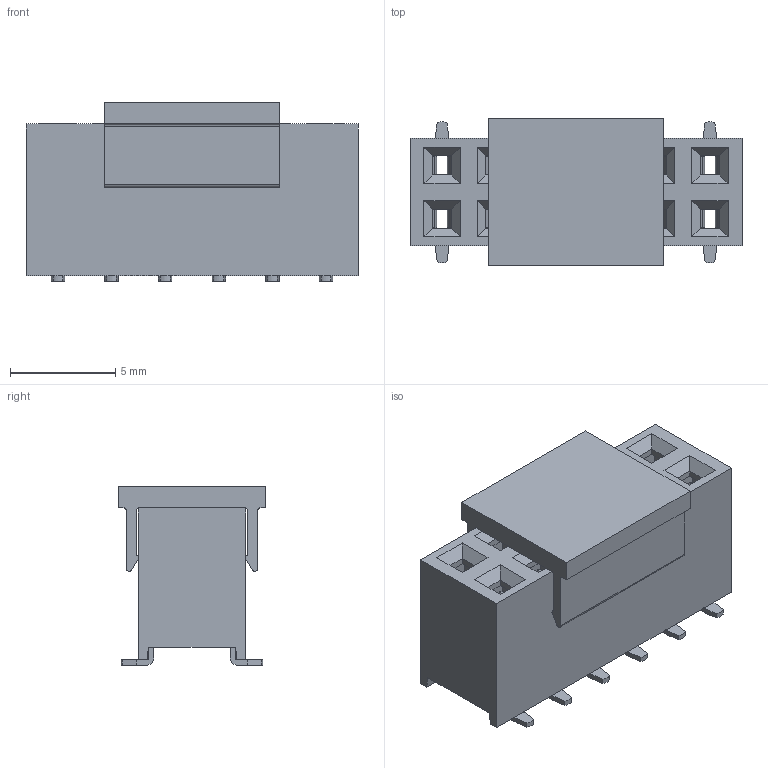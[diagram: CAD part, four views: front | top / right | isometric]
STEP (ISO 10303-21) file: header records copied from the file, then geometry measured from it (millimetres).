
FILE_DESCRIPTION(('STEP AP242'),'1');
FILE_NAME('61031221821.stp','2022-04-16T18:11:59',('TraceParts'),('TraceParts S.A.'),'Spatial InterOp 3D',' ',' ');
FILE_SCHEMA(('AP242_MANAGED_MODEL_BASED_3D_ENGINEERING_MIM_LF {1 0 10303 442 1 1 4}'));
Length unit declared in the file: millimetre
Products named in the file (1): 61031221821_1
Bounding box: 15.74 x 7 x 8.45 mm (x, y, z)
Volume: 454.1 mm3; surface area: 1795.7 mm2
Topology: 14 solids, 14 shells, 1150 faces, 3150 edges, 2028 vertices
Faces by surface type: plane 600, cylinder 526, bspline 24
Entity records: 37022 total; most frequent: CARTESIAN_POINT 6750, DIRECTION 6386, ORIENTED_EDGE 6300, EDGE_CURVE 3150, AXIS2_PLACEMENT_3D 2144, LINE 2098, VECTOR 2098, VERTEX_POINT 2028
